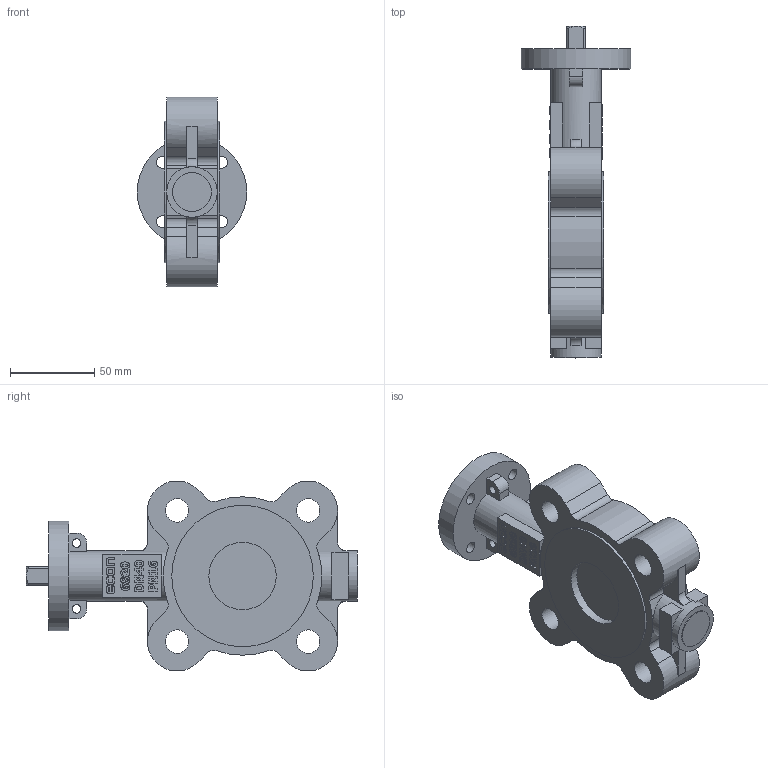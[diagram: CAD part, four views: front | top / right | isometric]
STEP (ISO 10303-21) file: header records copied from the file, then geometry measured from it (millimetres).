
FILE_DESCRIPTION(/* description */ (''),/* implementation_level */ '2;1');
FILE_NAME(/* name */ '6820-DN40-PN16-EPDM - 13332744.stp',/* time_stamp */ '2024-09-04T21:38:59+02:00',/* author */ ('roger.thijssen'),/* organization */ (''),/* preprocessor_version */ 'ST-DEVELOPER v20',/* originating_system */ 'Autodesk Inventor 2024',/* authorisation */ '');
FILE_SCHEMA (('AUTOMOTIVE_DESIGN { 1 0 10303 214 3 1 1 }'));
Length unit declared in the file: millimetre
Products named in the file (1): 6820-DN40-PN16
Bounding box: 65 x 197 x 112.65 mm (x, y, z)
Volume: 395229.2 mm3; surface area: 59698.5 mm2
Topology: 1 solids, 1 shells, 457 faces, 1221 edges, 807 vertices
Faces by surface type: plane 257, bspline 114, cylinder 77, cone 5, torus 4
Full cylindrical faces by diameter (mm): 4.917 x1, 5 x2, 7 x4, 13.835 x4, 23 x1, 30 x2, 40 x2, 65 x1, 84 x2
Entity records: 15889 total; most frequent: CARTESIAN_POINT 4566, ORIENTED_EDGE 2440, DIRECTION 1848, EDGE_CURVE 1220, VERTEX_POINT 807, LINE 768, VECTOR 768, AXIS2_PLACEMENT_3D 540
